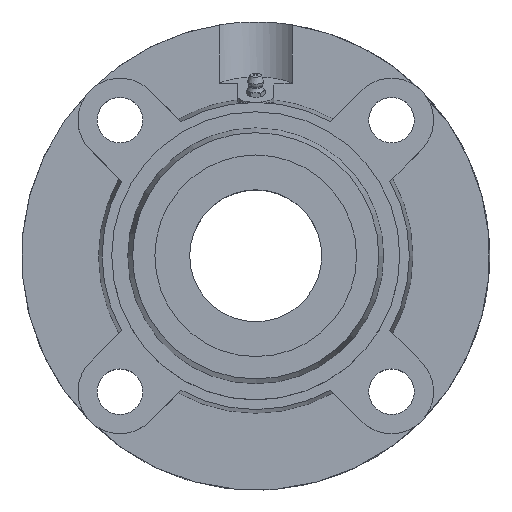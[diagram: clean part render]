
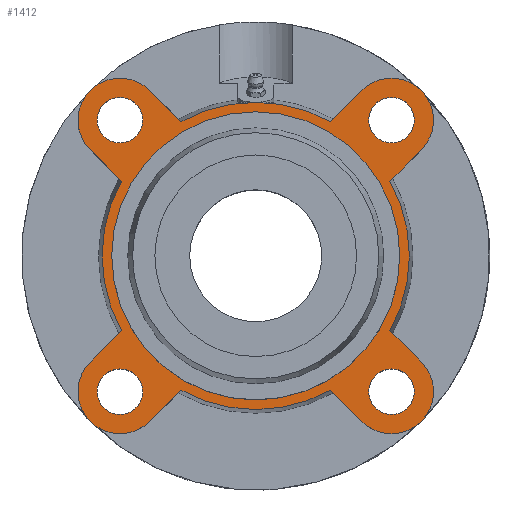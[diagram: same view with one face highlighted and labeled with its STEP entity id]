
A CAD part, top view. The second image highlights one B-rep face of the part: STEP entity #1412.
In plain terms, the highlighted planar face has unit normal (0, 0, 1).
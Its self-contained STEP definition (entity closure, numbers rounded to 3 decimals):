
#140=CARTESIAN_POINT('',(0.0,60.0,22.));
#141=VERTEX_POINT('',#140);
#142=CARTESIAN_POINT('',(0.0,0.,22.0));
#143=DIRECTION('',(0.0,0.0,-1.0));
#144=DIRECTION('',(0.0,1.0,0.0));
#145=AXIS2_PLACEMENT_3D('',#142,#143,#144);
#146=CIRCLE('',#145,60.0);
#147=EDGE_CURVE('',#141,#141,#146,.T.);
#229=CARTESIAN_POINT('',(-47.069,-56.569,22.));
#230=VERTEX_POINT('',#229);
#231=CARTESIAN_POINT('',(-56.569,-56.569,22.));
#232=DIRECTION('',(0.0,0.0,-1.0));
#233=DIRECTION('',(1.0,0.0,0.0));
#234=AXIS2_PLACEMENT_3D('',#231,#232,#233);
#235=CIRCLE('',#234,9.5);
#236=EDGE_CURVE('',#230,#230,#235,.T.);
#257=CARTESIAN_POINT('',(-47.069,56.569,22.));
#258=VERTEX_POINT('',#257);
#259=CARTESIAN_POINT('',(-56.569,56.569,22.));
#260=DIRECTION('',(0.0,0.0,-1.0));
#261=DIRECTION('',(1.0,0.0,0.0));
#262=AXIS2_PLACEMENT_3D('',#259,#260,#261);
#263=CIRCLE('',#262,9.5);
#264=EDGE_CURVE('',#258,#258,#263,.T.);
#285=CARTESIAN_POINT('',(66.069,56.569,22.));
#286=VERTEX_POINT('',#285);
#287=CARTESIAN_POINT('',(56.569,56.569,22.));
#288=DIRECTION('',(0.0,0.0,-1.0));
#289=DIRECTION('',(1.0,0.0,0.0));
#290=AXIS2_PLACEMENT_3D('',#287,#288,#289);
#291=CIRCLE('',#290,9.5);
#292=EDGE_CURVE('',#286,#286,#291,.T.);
#313=CARTESIAN_POINT('',(66.069,-56.569,22.));
#314=VERTEX_POINT('',#313);
#315=CARTESIAN_POINT('',(56.569,-56.569,22.));
#316=DIRECTION('',(0.0,0.0,-1.0));
#317=DIRECTION('',(1.0,0.0,0.0));
#318=AXIS2_PLACEMENT_3D('',#315,#316,#317);
#319=CIRCLE('',#318,9.5);
#320=EDGE_CURVE('',#314,#314,#319,.T.);
#710=CARTESIAN_POINT('',(0.,64.,22.));
#711=VERTEX_POINT('',#710);
#868=CARTESIAN_POINT('',(-31.156,55.905,22.));
#869=VERTEX_POINT('',#868);
#883=CARTESIAN_POINT('',(0.0,0.,22.));
#884=DIRECTION('',(0.0,0.0,1.0));
#885=DIRECTION('',(0.0,-1.0,0.0));
#886=AXIS2_PLACEMENT_3D('',#883,#884,#885);
#887=CIRCLE('',#886,64.);
#888=EDGE_CURVE('',#711,#869,#887,.T.);
#898=CARTESIAN_POINT('',(-31.156,-55.905,22.));
#899=VERTEX_POINT('',#898);
#915=CARTESIAN_POINT('',(-44.194,-68.943,22.));
#916=VERTEX_POINT('',#915);
#917=CARTESIAN_POINT('',(-31.156,-55.905,22.));
#918=DIRECTION('',(-0.707,-0.707,0.));
#919=VECTOR('',#918,18.439);
#920=LINE('',#917,#919);
#921=EDGE_CURVE('',#899,#916,#920,.T.);
#945=CARTESIAN_POINT('',(-55.905,31.156,22.));
#946=VERTEX_POINT('',#945);
#962=CARTESIAN_POINT('',(-68.943,44.194,22.));
#963=VERTEX_POINT('',#962);
#964=CARTESIAN_POINT('',(-55.905,31.156,22.));
#965=DIRECTION('',(-0.707,0.707,0.));
#966=VECTOR('',#965,18.439);
#967=LINE('',#964,#966);
#968=EDGE_CURVE('',#946,#963,#967,.T.);
#992=CARTESIAN_POINT('',(55.905,-31.156,22.0));
#993=VERTEX_POINT('',#992);
#1009=CARTESIAN_POINT('',(68.943,-44.194,22.));
#1010=VERTEX_POINT('',#1009);
#1011=CARTESIAN_POINT('',(55.905,-31.156,22.0));
#1012=DIRECTION('',(0.707,-0.707,0.));
#1013=VECTOR('',#1012,18.439);
#1014=LINE('',#1011,#1013);
#1015=EDGE_CURVE('',#993,#1010,#1014,.T.);
#1039=CARTESIAN_POINT('',(31.156,55.905,22.));
#1040=VERTEX_POINT('',#1039);
#1054=CARTESIAN_POINT('',(44.194,68.943,22.));
#1055=VERTEX_POINT('',#1054);
#1056=CARTESIAN_POINT('',(31.156,55.905,22.));
#1057=DIRECTION('',(0.707,0.707,0.));
#1058=VECTOR('',#1057,18.439);
#1059=LINE('',#1056,#1058);
#1060=EDGE_CURVE('',#1040,#1055,#1059,.T.);
#1079=CARTESIAN_POINT('',(55.905,31.156,22.));
#1080=VERTEX_POINT('',#1079);
#1102=CARTESIAN_POINT('',(68.943,44.194,22.));
#1103=VERTEX_POINT('',#1102);
#1110=CARTESIAN_POINT('',(68.943,44.194,22.));
#1111=DIRECTION('',(-0.707,-0.707,0.));
#1112=VECTOR('',#1111,18.439);
#1113=LINE('',#1110,#1112);
#1114=EDGE_CURVE('',#1103,#1080,#1113,.T.);
#1124=CARTESIAN_POINT('',(-68.943,-44.194,22.));
#1125=VERTEX_POINT('',#1124);
#1126=CARTESIAN_POINT('',(-56.569,-56.569,22.));
#1127=DIRECTION('',(0.0,0.0,-1.0));
#1128=DIRECTION('',(-0.707,0.707,0.0));
#1129=AXIS2_PLACEMENT_3D('',#1126,#1127,#1128);
#1130=CIRCLE('',#1129,17.5);
#1131=EDGE_CURVE('',#916,#1125,#1130,.T.);
#1166=CARTESIAN_POINT('',(-55.905,-31.156,22.0));
#1167=VERTEX_POINT('',#1166);
#1188=CARTESIAN_POINT('',(-68.943,-44.194,22.));
#1189=DIRECTION('',(0.707,0.707,0.));
#1190=VECTOR('',#1189,18.439);
#1191=LINE('',#1188,#1190);
#1192=EDGE_CURVE('',#1125,#1167,#1191,.T.);
#1202=CARTESIAN_POINT('',(-44.194,68.943,22.));
#1203=VERTEX_POINT('',#1202);
#1204=CARTESIAN_POINT('',(-56.569,56.569,22.));
#1205=DIRECTION('',(0.0,0.0,-1.0));
#1206=DIRECTION('',(0.707,0.707,0.0));
#1207=AXIS2_PLACEMENT_3D('',#1204,#1205,#1206);
#1208=CIRCLE('',#1207,17.5);
#1209=EDGE_CURVE('',#963,#1203,#1208,.T.);
#1237=CARTESIAN_POINT('',(-44.194,68.943,22.));
#1238=DIRECTION('',(0.707,-0.707,0.));
#1239=VECTOR('',#1238,18.439);
#1240=LINE('',#1237,#1239);
#1241=EDGE_CURVE('',#1203,#869,#1240,.T.);
#1251=CARTESIAN_POINT('',(44.194,-68.943,22.));
#1252=VERTEX_POINT('',#1251);
#1253=CARTESIAN_POINT('',(56.569,-56.569,22.));
#1254=DIRECTION('',(0.0,0.0,-1.0));
#1255=DIRECTION('',(-0.707,-0.707,0.0));
#1256=AXIS2_PLACEMENT_3D('',#1253,#1254,#1255);
#1257=CIRCLE('',#1256,17.5);
#1258=EDGE_CURVE('',#1010,#1252,#1257,.T.);
#1293=CARTESIAN_POINT('',(31.156,-55.905,22.));
#1294=VERTEX_POINT('',#1293);
#1315=CARTESIAN_POINT('',(44.194,-68.943,22.));
#1316=DIRECTION('',(-0.707,0.707,0.));
#1317=VECTOR('',#1316,18.439);
#1318=LINE('',#1315,#1317);
#1319=EDGE_CURVE('',#1252,#1294,#1318,.T.);
#1329=CARTESIAN_POINT('',(56.569,56.569,22.));
#1330=DIRECTION('',(0.0,0.0,-1.0));
#1331=DIRECTION('',(0.707,-0.707,0.0));
#1332=AXIS2_PLACEMENT_3D('',#1329,#1330,#1331);
#1333=CIRCLE('',#1332,17.5);
#1334=EDGE_CURVE('',#1055,#1103,#1333,.T.);
#1349=CARTESIAN_POINT('',(0.0,-32.0,22.));
#1350=DIRECTION('',(0.0,0.0,1.0));
#1351=DIRECTION('',(1.0,0.0,0.0));
#1352=AXIS2_PLACEMENT_3D('',#1349,#1350,#1351);
#1353=PLANE('',#1352);
#1354=CARTESIAN_POINT('',(0.0,0.,22.));
#1355=DIRECTION('',(0.0,0.0,1.0));
#1356=DIRECTION('',(0.0,-1.0,0.0));
#1357=AXIS2_PLACEMENT_3D('',#1354,#1355,#1356);
#1358=CIRCLE('',#1357,64.);
#1359=EDGE_CURVE('',#899,#1294,#1358,.T.);
#1360=ORIENTED_EDGE('',*,*,#1359,.T.);
#1361=ORIENTED_EDGE('',*,*,#1319,.F.);
#1362=ORIENTED_EDGE('',*,*,#1258,.F.);
#1363=ORIENTED_EDGE('',*,*,#1015,.F.);
#1364=CARTESIAN_POINT('',(0.0,0.,22.));
#1365=DIRECTION('',(0.0,0.0,1.0));
#1366=DIRECTION('',(0.0,-1.0,0.0));
#1367=AXIS2_PLACEMENT_3D('',#1364,#1365,#1366);
#1368=CIRCLE('',#1367,64.);
#1369=EDGE_CURVE('',#993,#1080,#1368,.T.);
#1370=ORIENTED_EDGE('',*,*,#1369,.T.);
#1371=ORIENTED_EDGE('',*,*,#1114,.F.);
#1372=ORIENTED_EDGE('',*,*,#1334,.F.);
#1373=ORIENTED_EDGE('',*,*,#1060,.F.);
#1374=CARTESIAN_POINT('',(0.0,0.,22.));
#1375=DIRECTION('',(0.0,0.0,1.0));
#1376=DIRECTION('',(0.0,-1.0,0.0));
#1377=AXIS2_PLACEMENT_3D('',#1374,#1375,#1376);
#1378=CIRCLE('',#1377,64.);
#1379=EDGE_CURVE('',#1040,#711,#1378,.T.);
#1380=ORIENTED_EDGE('',*,*,#1379,.T.);
#1381=ORIENTED_EDGE('',*,*,#888,.T.);
#1382=ORIENTED_EDGE('',*,*,#1241,.F.);
#1383=ORIENTED_EDGE('',*,*,#1209,.F.);
#1384=ORIENTED_EDGE('',*,*,#968,.F.);
#1385=CARTESIAN_POINT('',(0.0,0.,22.));
#1386=DIRECTION('',(0.0,0.0,1.0));
#1387=DIRECTION('',(0.0,-1.0,0.0));
#1388=AXIS2_PLACEMENT_3D('',#1385,#1386,#1387);
#1389=CIRCLE('',#1388,64.);
#1390=EDGE_CURVE('',#946,#1167,#1389,.T.);
#1391=ORIENTED_EDGE('',*,*,#1390,.T.);
#1392=ORIENTED_EDGE('',*,*,#1192,.F.);
#1393=ORIENTED_EDGE('',*,*,#1131,.F.);
#1394=ORIENTED_EDGE('',*,*,#921,.F.);
#1395=EDGE_LOOP('',(#1360,#1361,#1362,#1363,#1370,#1371,#1372,#1373,#1380,#1381,#1382,#1383,#1384,#1391,#1392,#1393,#1394));
#1396=FACE_OUTER_BOUND('',#1395,.T.);
#1397=ORIENTED_EDGE('',*,*,#147,.T.);
#1398=EDGE_LOOP('',(#1397));
#1399=FACE_BOUND('',#1398,.T.);
#1400=ORIENTED_EDGE('',*,*,#236,.T.);
#1401=EDGE_LOOP('',(#1400));
#1402=FACE_BOUND('',#1401,.T.);
#1403=ORIENTED_EDGE('',*,*,#264,.T.);
#1404=EDGE_LOOP('',(#1403));
#1405=FACE_BOUND('',#1404,.T.);
#1406=ORIENTED_EDGE('',*,*,#292,.T.);
#1407=EDGE_LOOP('',(#1406));
#1408=FACE_BOUND('',#1407,.T.);
#1409=ORIENTED_EDGE('',*,*,#320,.T.);
#1410=EDGE_LOOP('',(#1409));
#1411=FACE_BOUND('',#1410,.T.);
#1412=ADVANCED_FACE('',(#1396,#1399,#1402,#1405,#1408,#1411),#1353,.T.);
